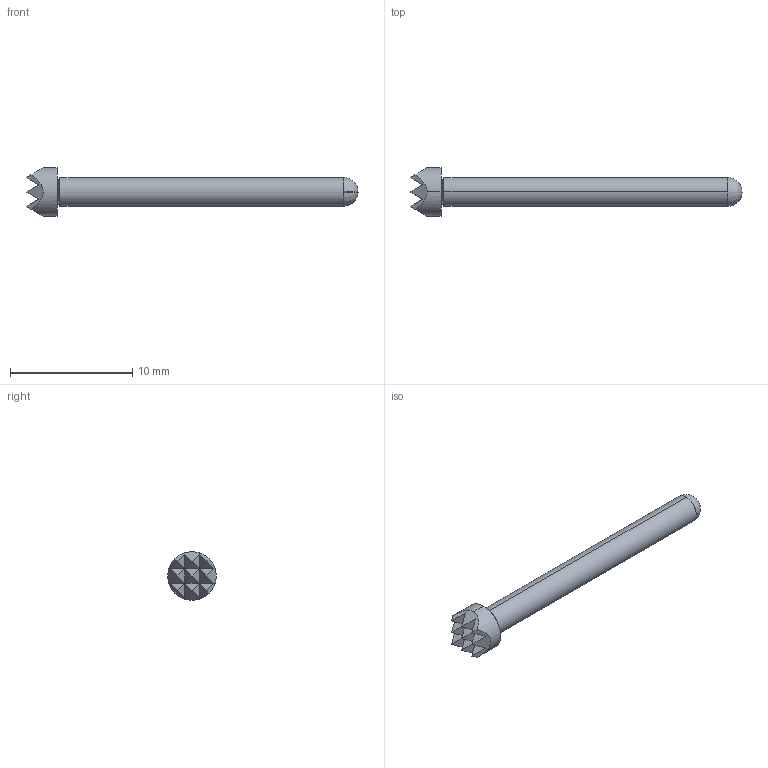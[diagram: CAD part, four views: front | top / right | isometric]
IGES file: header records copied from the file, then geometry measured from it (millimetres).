
Start section: SolidWorks IGES file using analytic representation for surfaces
Global section: file name: Z:\probe solid model mockups\Solidworks models\IGES Files\HCP-14 IGES files\HCP-14H Full.IGS; native system: SolidWorks 2006 by SolidWorks Corporation; preprocessor: SolidWorks 2006 by SolidWorks Corporation; author: tsakatani; date: 071202.143604; units: inch
Bounding box: 27.18 x 3.96 x 3.96 mm (x, y, z)
Surface area: 237.6 mm2 (no closed solid volume)
Topology: 0 solids, 0 shells, 37 faces, 242 edges, 240 vertices
Faces by surface type: bspline 29, revolution 8
